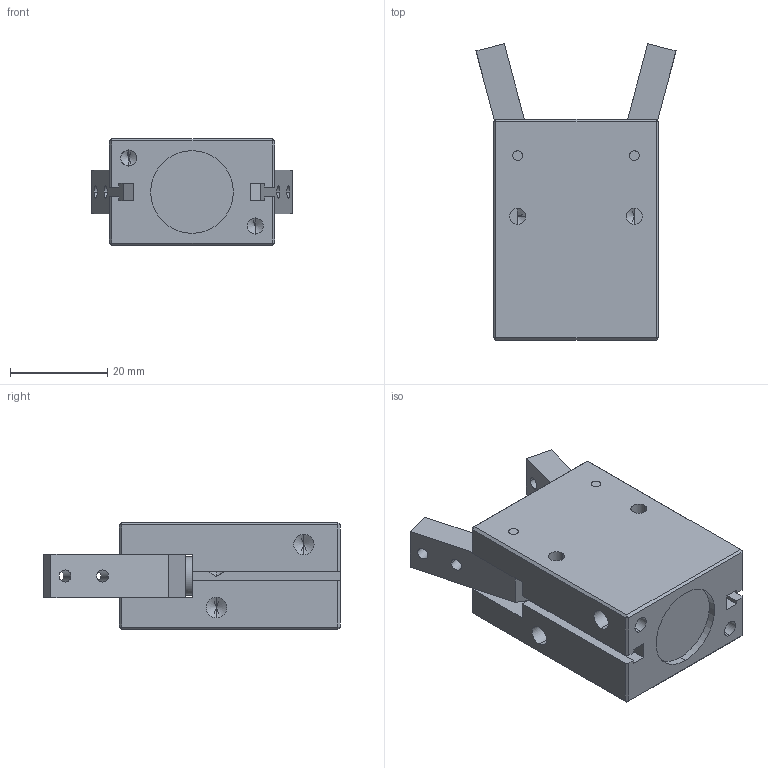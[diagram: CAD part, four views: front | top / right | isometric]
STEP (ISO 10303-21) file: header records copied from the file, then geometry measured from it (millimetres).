
FILE_DESCRIPTION (( 'STEP AP203' ), '1' );
FILE_NAME ('GDS.16-OPEN.STEP', '2011-10-20T11:47:23', ( 'Christophe Gaillard' ), ( 'SGA' ), 'SwSTEP 2.0', 'SolidWorks 2010', '' );
FILE_SCHEMA (( 'CONFIG_CONTROL_DESIGN' ));
Products named in the file (6): CORPS.GDS.16; GDS.16-OPEN; MORS; Pièce4; Pièce5; Pièce7
Assembly tree (8 placements, depth 2):
  GDS.16-OPEN
    Pièce7  x2
    MORS  x2
    CORPS.GDS.16
    Pièce5  x2
    Pièce4
Bounding box: 41.18 x 61.06 x 22 mm (x, y, z)
Volume: 30928.5 mm3; surface area: 12902 mm2
Topology: 8 solids, 8 shells, 580 faces, 1549 edges, 1013 vertices
Faces by surface type: plane 302, bspline 215, cylinder 48, cone 15
Entity records: 32554 total; most frequent: CARTESIAN_POINT 19481, ORIENTED_EDGE 2936, DIRECTION 1810, EDGE_CURVE 1468, VERTEX_POINT 969, LINE 950, VECTOR 950, EDGE_LOOP 615
